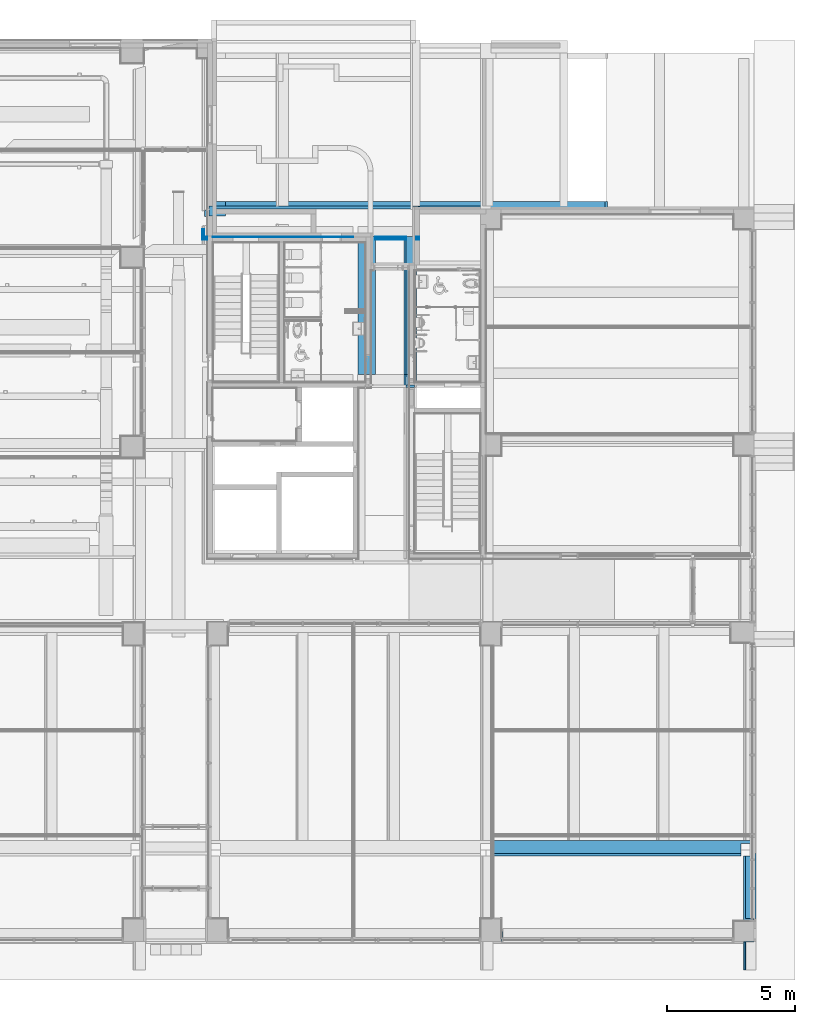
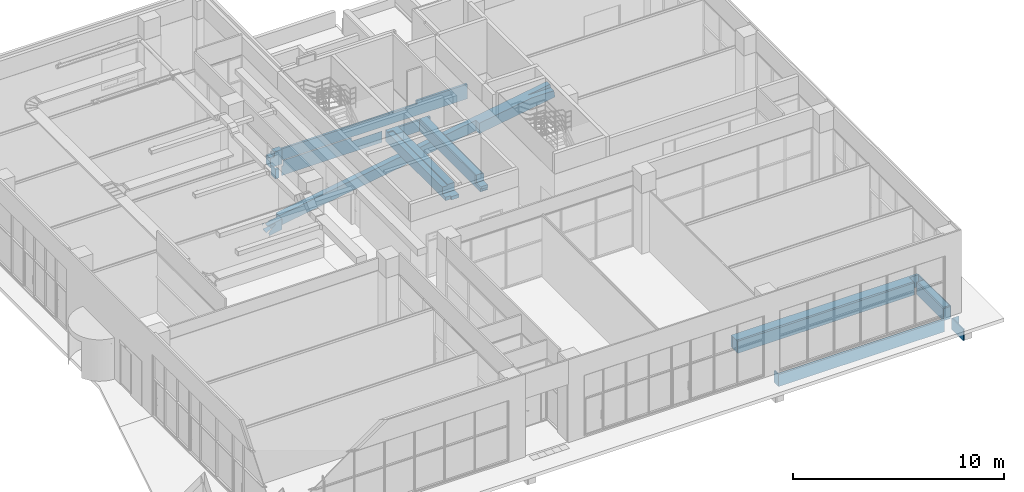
# One storey, part 59 of 100: 12 beams.
"""IFC2X3 building model written with IfcOpenShell, lengths in millimetres."""

import ifcopenshell
import ifcopenshell.guid

model = None  # the IFC model being written
_history = None  # IfcOwnerHistory: only IFC2X3 demands one
_inside = {}  # id of a spatial element -> (the spatial element, [elements in it])
_under = {}  # id of a project, library or spatial element -> (it, [spatial elements below it])
_declared = {}  # id of a project -> (the project, [libraries it declares])
_typed = {}  # id of a type object -> (the type object, [elements of that type])
_made_of = {}  # id of a material, layer set ... -> (it, [elements and type objects made of it])


def new_model(schema):
    """Start an empty IFC model of exactly this schema.

    Asked for "IFC4X3", IfcOpenShell would pick the latest addendum, in which some entities
    have other attributes; the version numbers below select the first issue.
    IFC2X3 requires an IfcOwnerHistory on every rooted entity: one is made here for all.
    """
    global model, _history
    if schema == "IFC4X3":
        model = ifcopenshell.file(schema_version=(4, 3, 0, 0))
    else:
        model = ifcopenshell.file(schema=schema)
    _inside.clear()
    _under.clear()
    _declared.clear()
    _typed.clear()
    _made_of.clear()
    _history = None
    if model.schema == "IFC2X3":
        org = make("IfcOrganization", Name="unknown")
        user = make(
            "IfcPersonAndOrganization",
            ThePerson=make("IfcPerson", FamilyName="unknown"),
            TheOrganization=org,
        )
        app = make(
            "IfcApplication",
            ApplicationDeveloper=org,
            Version="unknown",
            ApplicationFullName="unknown",
            ApplicationIdentifier="unknown",
        )
        _history = make(
            "IfcOwnerHistory",
            OwningUser=user,
            OwningApplication=app,
            ChangeAction="ADDED",
            CreationDate=0,
        )
    return model


def make(cls, **values):
    """One entity of the class cls with the attributes given. An attribute that is None is left unset."""
    return model.create_entity(
        cls, **{name: value for name, value in values.items() if value is not None}
    )


def entity(cls, *values):
    """Any entity or typed value of the class cls, its attributes in the order of the schema. None: left unset."""
    e = model.create_entity(cls)
    for i, value in enumerate(values):
        if value is not None:
            e[i] = value
    return e


def rooted(cls, **values):
    """An entity with a GlobalId (a new one), such as an element, a storey or a relation."""
    return make(cls, GlobalId=ifcopenshell.guid.new(), OwnerHistory=_history, **values)


def si_unit(unit_type, name, prefix=None):
    """IfcSIUnit, for example si_unit("LENGTHUNIT", "METRE", prefix="MILLI")."""
    return make("IfcSIUnit", UnitType=unit_type, Prefix=prefix, Name=name)


def converted_unit(unit_type, name, factor, base, dimensions=None, offset=None):
    """IfcConversionBasedUnit, such as the inch: factor (a typed value) times the base unit."""
    return make(
        "IfcConversionBasedUnit"
        if offset is None
        else "IfcConversionBasedUnitWithOffset",
        ConversionOffset=offset,
        Dimensions=None
        if dimensions is None
        else entity("IfcDimensionalExponents", *dimensions),
        UnitType=unit_type,
        Name=name,
        ConversionFactor=make(
            "IfcMeasureWithUnit", ValueComponent=factor, UnitComponent=base
        ),
    )


def derived_unit(unit_type, elements):
    """IfcDerivedUnit: a product of units, each with its exponent."""
    return make(
        "IfcDerivedUnit",
        Elements=[
            make("IfcDerivedUnitElement", Unit=unit, Exponent=power)
            for unit, power in elements
        ],
        UnitType=unit_type,
    )


def assignment(units):
    """IfcUnitAssignment: the units of a project."""
    return None if units is None else make("IfcUnitAssignment", Units=units)


def point(xyz):
    """IfcCartesianPoint."""
    return None if xyz is None else make("IfcCartesianPoint", Coordinates=xyz)


def direction(xyz):
    """IfcDirection."""
    return None if xyz is None else make("IfcDirection", DirectionRatios=xyz)


def frame(location, z_axis=None, x_axis=None):
    """IfcAxis2Placement3D, a coordinate frame: its origin and axes. An axis left out is left unset."""
    return make(
        "IfcAxis2Placement3D",
        Location=point(location),
        Axis=direction(z_axis),
        RefDirection=direction(x_axis),
    )


def origin():
    """The frame at (0, 0, 0) with its axes left unset."""
    return frame((0.0, 0.0, 0.0))


def place(relative_to, where):
    """IfcLocalPlacement: puts the frame where relative to a parent placement (None: the world)."""
    return make(
        "IfcLocalPlacement", PlacementRelTo=relative_to, RelativePlacement=where
    )


def context(
    kind, dimensions, precision=None, world=None, true_north=None, identifier=None
):
    """IfcGeometricRepresentationContext, for example the 3D "Model" context."""
    return make(
        "IfcGeometricRepresentationContext",
        ContextIdentifier=identifier,
        ContextType=kind,
        CoordinateSpaceDimension=dimensions,
        Precision=precision,
        WorldCoordinateSystem=world,
        TrueNorth=true_north,
    )


def subcontext(parent, identifier, kind, view, scale=None):
    """IfcGeometricRepresentationSubContext, for example "Body" below "Model"."""
    return make(
        "IfcGeometricRepresentationSubContext",
        ContextIdentifier=identifier,
        ContextType=kind,
        ParentContext=parent,
        TargetScale=scale,
        TargetView=view,
    )


def project(units=None, contexts=None):
    """IfcProject with its units and contexts."""
    return rooted(
        "IfcProject",
        Name="project",
        RepresentationContexts=contexts,
        UnitsInContext=assignment(units),
    )


def spatial(cls, under=None, at=None, **own):
    """A site, building, storey or space (cls), placed at a placement, below another one or the project."""
    s = rooted(cls, ObjectPlacement=at, **own)
    if under is not None:
        _under.setdefault(under.id(), (under, []))[1].append(s)
    return s


def faces_of(points, faces, orient=None, outer=None):
    """IfcFace entities. A face is a list of loops; a loop is a list of indices into points, from 0.

    orient and outer hold one flag for each loop. By default every Orientation is true, the
    first loop of a face is its IfcFaceOuterBound and the others are IfcFaceBound.
    """
    made = []
    for i, loops in enumerate(faces):
        bounds = []
        for j, loop in enumerate(loops):
            is_outer = j == 0 if outer is None else outer[i][j]
            bounds.append(
                make(
                    "IfcFaceOuterBound" if is_outer else "IfcFaceBound",
                    Bound=make("IfcPolyLoop", Polygon=[points[k] for k in loop]),
                    Orientation=True if orient is None else orient[i][j],
                )
            )
        made.append(make("IfcFace", Bounds=bounds))
    return made


def faceted_brep(points, faces, orient=None, outer=None, voids=None):
    """IfcFacetedBrep: a solid bounded by flat faces; with voids (closed shells), ...WithVoids."""
    shared = [point(p) for p in points]
    hull = make("IfcClosedShell", CfsFaces=faces_of(shared, faces, orient, outer))
    if voids is None:
        return make("IfcFacetedBrep", Outer=hull)
    return make(
        "IfcFacetedBrepWithVoids",
        Outer=hull,
        Voids=[
            make(cls, CfsFaces=faces_of(shared, fs, o, b)) for cls, fs, o, b in voids
        ],
    )


def shape(context_of_items, identifier, shape_type, items):
    """IfcShapeRepresentation: the items that make up one representation, for example the "Body"."""
    return make(
        "IfcShapeRepresentation",
        ContextOfItems=context_of_items,
        RepresentationIdentifier=identifier,
        RepresentationType=shape_type,
        Items=items,
    )


def source(mapping_origin, context_of_items, identifier, shape_type, items):
    """IfcRepresentationMap: a shape defined once, which mapped items show again and again."""
    return make(
        "IfcRepresentationMap",
        MappingOrigin=mapping_origin,
        MappedRepresentation=shape(context_of_items, identifier, shape_type, items),
    )


def transform(
    local_origin,
    x_axis=None,
    y_axis=None,
    z_axis=None,
    scale=None,
    scale2=None,
    scale3=None,
    uniform=True,
):
    """IfcCartesianTransformationOperator3D, or its non-uniform kind. x_axis, y_axis, z_axis: its Axis1, 2, 3."""
    if uniform:
        return make(
            "IfcCartesianTransformationOperator3D",
            Axis1=direction(x_axis),
            Axis2=direction(y_axis),
            LocalOrigin=point(local_origin),
            Scale=scale,
            Axis3=direction(z_axis),
        )
    return make(
        "IfcCartesianTransformationOperator3DnonUniform",
        Axis1=direction(x_axis),
        Axis2=direction(y_axis),
        LocalOrigin=point(local_origin),
        Scale=scale,
        Axis3=direction(z_axis),
        Scale2=scale2,
        Scale3=scale3,
    )


def mapped(mapping_source, mapping_target):
    """IfcMappedItem: shows the shape of a source again, moved by a transform."""
    return make(
        "IfcMappedItem", MappingSource=mapping_source, MappingTarget=mapping_target
    )


def material(Name=None, Category=None):
    """IfcMaterial."""
    return make("IfcMaterial", Name=Name, Category=Category)


def material_list(materials):
    """IfcMaterialList."""
    return make("IfcMaterialList", Materials=materials)


def made_of(thing, what):
    """Note that an element or type object is made of a material, layer set ...; save() writes the relation."""
    if what is not None:
        _made_of.setdefault(what.id(), (what, []))[1].append(thing)
    return thing


def type_object(cls, material=None, **own):
    """A type object (cls), such as IfcWallType, which elements share."""
    return made_of(rooted(cls, **own), material)


def type_shapes(of_type, sources):
    """Give a type object the sources (RepresentationMaps) that its elements show as mapped items."""
    of_type.RepresentationMaps = sources


def element(
    cls,
    number,
    at=None,
    inside=None,
    cuts=None,
    type_object=None,
    material=None,
    context=None,
    identifier="Body",
    shape_type=None,
    held_by="IfcProductDefinitionShape",
    body=None,
    shapes=None,
    **own,
):
    """One element of the class cls, such as IfcWall. Its Tag is "e" and its number.

    at: its placement. inside: the storey or other place that contains it. cuts: it is an
    opening in that element (IfcRelVoidsElement). A single representation is given by context,
    identifier, shape_type and body (its items); several are given by shapes. held_by: the class
    of the entity that holds the representations. save() writes the other relations.
    """
    e = rooted(cls, Tag="e%d" % number, ObjectPlacement=at, **own)
    if body is not None:
        shapes = [shape(context, identifier, shape_type, body)]
    if shapes is not None:
        e.Representation = make(held_by, Representations=shapes)
    if inside is not None:
        _inside.setdefault(inside.id(), (inside, []))[1].append(e)
    if cuts is not None:
        rooted(
            "IfcRelVoidsElement", RelatingBuildingElement=cuts, RelatedOpeningElement=e
        )
    if type_object is not None:
        _typed.setdefault(type_object.id(), (type_object, []))[1].append(e)
    return made_of(e, material)


def aggregate(whole, parts):
    """IfcRelAggregates: a whole, such as a stair, and the parts it consists of."""
    return rooted("IfcRelAggregates", RelatingObject=whole, RelatedObjects=parts)


def save(model, path):
    """Write the relations noted so far, then the file.

    IfcRelAggregates (storeys below a building ...), IfcRelContainedInSpatialStructure (elements
    in a storey), IfcRelDefinesByType, IfcRelAssociatesMaterial and IfcRelDeclares: one each for
    every whole, place, type object, material and project.
    """
    for whole, parts in _under.values():
        aggregate(whole, parts)
    for where, things in _inside.values():
        rooted(
            "IfcRelContainedInSpatialStructure",
            RelatedElements=things,
            RelatingStructure=where,
        )
    for kind, things in _typed.values():
        rooted("IfcRelDefinesByType", RelatedObjects=things, RelatingType=kind)
    for what, things in _made_of.values():
        rooted("IfcRelAssociatesMaterial", RelatedObjects=things, RelatingMaterial=what)
    for by, libraries in _declared.values():
        rooted("IfcRelDeclares", RelatingContext=by, RelatedDefinitions=libraries)
    model.write(path)


model = new_model("IFC2X3")

# Units and contexts
model_context = context("Model", 3, precision=0.01, world=origin(), true_north=direction((6.123031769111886e-17, 1.0)))
body_context = subcontext(model_context, "Body", "Model", "MODEL_VIEW")
ifc_project = project(units=[si_unit("LENGTHUNIT", "METRE", prefix="MILLI"), si_unit("AREAUNIT", "SQUARE_METRE"), si_unit("VOLUMEUNIT", "CUBIC_METRE"), converted_unit("PLANEANGLEUNIT", "DEGREE", entity("IfcRatioMeasure", 0.017453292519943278), si_unit("PLANEANGLEUNIT", "RADIAN"), dimensions=[0, 0, 0, 0, 0, 0, 0]), si_unit("MASSUNIT", "GRAM", prefix="KILO"), derived_unit("MASSDENSITYUNIT", [(si_unit("MASSUNIT", "GRAM", prefix="KILO"), 1), (si_unit("LENGTHUNIT", "METRE"), -3)]), derived_unit("MOMENTOFINERTIAUNIT", [(si_unit("LENGTHUNIT", "METRE"), 4)]), si_unit("TIMEUNIT", "SECOND"), si_unit("FREQUENCYUNIT", "HERTZ"), si_unit("THERMODYNAMICTEMPERATUREUNIT", "DEGREE_CELSIUS"), derived_unit("THERMALTRANSMITTANCEUNIT", [(si_unit("MASSUNIT", "GRAM", prefix="KILO"), 1), (si_unit("THERMODYNAMICTEMPERATUREUNIT", "KELVIN"), -1), (si_unit("TIMEUNIT", "SECOND"), -3)]), derived_unit("VOLUMETRICFLOWRATEUNIT", [(si_unit("LENGTHUNIT", "METRE"), 3), (si_unit("TIMEUNIT", "SECOND"), -1)]), derived_unit("MASSFLOWRATEUNIT", [(si_unit("MASSUNIT", "GRAM", prefix="KILO"), 1), (si_unit("TIMEUNIT", "SECOND"), -1)]), derived_unit("ROTATIONALFREQUENCYUNIT", [(si_unit("TIMEUNIT", "SECOND"), -1)]), si_unit("ELECTRICCURRENTUNIT", "AMPERE"), si_unit("ELECTRICVOLTAGEUNIT", "VOLT"), si_unit("POWERUNIT", "WATT"), si_unit("FORCEUNIT", "NEWTON", prefix="KILO"), si_unit("ILLUMINANCEUNIT", "LUX"), si_unit("LUMINOUSFLUXUNIT", "LUMEN"), si_unit("LUMINOUSINTENSITYUNIT", "CANDELA"), derived_unit("USERDEFINED", [(si_unit("MASSUNIT", "GRAM", prefix="KILO"), -1), (si_unit("LENGTHUNIT", "METRE"), -2), (si_unit("TIMEUNIT", "SECOND"), 3), (si_unit("LUMINOUSFLUXUNIT", "LUMEN"), 1)]), derived_unit("SOUNDPOWERUNIT", [(si_unit("MASSUNIT", "GRAM", prefix="KILO"), 1), (si_unit("LENGTHUNIT", "METRE"), 2), (si_unit("TIMEUNIT", "SECOND"), -3)]), derived_unit("SOUNDPRESSUREUNIT", [(si_unit("MASSUNIT", "GRAM", prefix="KILO"), 1), (si_unit("LENGTHUNIT", "METRE"), -1), (si_unit("TIMEUNIT", "SECOND"), -2)]), derived_unit("LINEARVELOCITYUNIT", [(si_unit("LENGTHUNIT", "METRE"), 1), (si_unit("TIMEUNIT", "SECOND"), -1)]), si_unit("PRESSUREUNIT", "PASCAL"), derived_unit("USERDEFINED", [(si_unit("LENGTHUNIT", "METRE"), -2), (si_unit("MASSUNIT", "GRAM", prefix="KILO"), 1), (si_unit("TIMEUNIT", "SECOND"), -2)]), derived_unit("LINEARFORCEUNIT", [(si_unit("MASSUNIT", "GRAM", prefix="KILO"), 1), (si_unit("LENGTHUNIT", "METRE"), 1), (si_unit("TIMEUNIT", "SECOND"), -2), (si_unit("LENGTHUNIT", "METRE"), -1)]), derived_unit("PLANARFORCEUNIT", [(si_unit("MASSUNIT", "GRAM", prefix="KILO"), 1), (si_unit("LENGTHUNIT", "METRE"), 1), (si_unit("TIMEUNIT", "SECOND"), -2), (si_unit("LENGTHUNIT", "METRE"), -2)])], contexts=[model_context])

# Site, building, storey
site_placement = place(None, frame((-14167.972527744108, -657.2125860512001, 0.0)))
site = spatial("IfcSite", under=ifc_project, at=site_placement, Name="Default", CompositionType="ELEMENT")
building_placement = place(site_placement, origin())
building = spatial("IfcBuilding", under=site, at=building_placement, Name="Sample Building", CompositionType="ELEMENT")
storey_placement = place(building_placement, origin())
storey = spatial("IfcBuildingStorey", under=building, at=storey_placement, Name="지상 1층", CompositionType="ELEMENT", Elevation=0.0)

# Beams
ifc_material = material(Name="KBIMS-콘크리트")
beam_type_1 = type_object("IfcBeamType", Name="BM111-철근콘크리트구조 보:BM110-철근 콘크리트구조 보_400 x 850_B1-1G3", PredefinedType="NOTDEFINED")
beam_1_placement = place(storey_placement, frame((51143.2459298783, 1458.877196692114, -850.0), z_axis=(0.0, 0.0, 1.0), x_axis=(0.0, 1.0, 0.0)))
element("IfcBeam", 1, at=beam_1_placement, inside=storey, type_object=beam_type_1, material=ifc_material, Name="BM111-철근콘크리트구조 보:BM110-철근 콘크리트구조 보_400 x 850_B1-1G3", ObjectType="BM111-철근콘크리트구조 보:BM110-철근 콘크리트구조 보_400 x 850_B1-1G3", context=body_context, shape_type="Brep", body=[
    faceted_brep([(0.0, 0.0, 0.0), (0.0, -324.7005496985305, 0.0), (0.0, -400.0, 0.0), (0.0, -400.0, 650.0), (0.0, -324.7265554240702, 650.0), (0.0, -324.7265554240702, 700.0), (0.0, 0.0, 700.0), (2562.1999935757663, -400.0, 0.0), (2562.1999935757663, -400.0, 650.0), (2448.335495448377, 0.0, 0.0), (2448.335495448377, -324.71790823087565, 0.0), (2562.1999935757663, -324.71790823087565, 0.0), (2448.335495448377, 0.0, 700.0), (2562.1999935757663, -324.7265554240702, 650.0), (2562.1999935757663, -324.71790823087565, 650.0), (2448.335495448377, -324.72655542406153, 650.0), (2448.335495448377, -324.7265554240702, 700.0), (2448.335495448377, -324.71790823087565, 650.0)], [[[0, 1, 2, 3, 4, 5, 6]], [[3, 2, 7, 8]], [[2, 1, 0, 9, 10, 11, 7]], [[0, 6, 12, 9]], [[8, 7, 11, 13]], [[4, 3, 8, 14, 15]], [[5, 4, 15, 16]], [[6, 5, 16, 12]], [[10, 17, 14, 11]], [[17, 10, 9, 12, 16]]]),
])
beam_2_placement = place(storey_placement, frame((51067.946479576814, 1357.2127049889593, -850.0), z_axis=(0.0, 0.0, 1.0), x_axis=(0.0, 1.0, 0.0)))
element("IfcBeam", 2, at=beam_2_placement, inside=storey, type_object=beam_type_1, material=ifc_material, Name="BM111-철근콘크리트구조 보:BM110-철근 콘크리트구조 보_400 x 850_B1-1G3", ObjectType="BM111-철근콘크리트구조 보:BM110-철근 콘크리트구조 보_400 x 850_B1-1G3", context=body_context, shape_type="Brep", body=[
    faceted_brep([(0.0, 0.0, 0.0), (0.0, -400.0, 0.0), (0.0, -400.0, 650.0), (0.0, -400.0, 700.0), (0.0, 0.0, 700.0), (2549.9999871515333, 0.0, 0.0), (2549.9999871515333, 0.0, 700.0), (2549.9999871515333, -75.29945030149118, 700.0), (2549.9999871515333, -75.29945030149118, 0.0), (101.66449170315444, -400.0, 0.0), (101.66449170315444, -400.0, 700.0), (101.66449170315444, -75.29945030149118, 0.0), (101.66449170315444, -75.29945030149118, 700.0)], [[[0, 1, 2, 3, 4]], [[5, 6, 7, 8]], [[2, 1, 9, 10, 3]], [[1, 0, 5, 8, 11, 9]], [[5, 0, 4, 6]], [[4, 3, 10, 12, 7, 6]], [[11, 12, 10, 9]], [[12, 11, 8, 7]]]),
])
beam_3_placement = place(storey_placement, frame((51067.955135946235, -542.7876920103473, -850.0), z_axis=(0.0, 0.0, 1.0), x_axis=(0.0, -1.0, 0.0)))
element("IfcBeam", 3, at=beam_3_placement, inside=storey, type_object=beam_type_1, material=ifc_material, Name="BM111-철근콘크리트구조 보:BM110-철근 콘크리트구조 보_400 x 850_B1-1G3", ObjectType="BM111-철근콘크리트구조 보:BM110-철근 콘크리트구조 보_400 x 850_B1-1G3", context=body_context, shape_type="Brep", body=[
    faceted_brep([(-1100.0003090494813, 400.0, 0.0), (-1100.0003090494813, 400.0, 650.0), (-1099.082403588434, 400.0, 650.0), (-1099.082403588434, 400.0, 0.0), (-1100.0003090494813, 0.0, 0.0), (-1099.082403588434, 75.29945030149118, 0.0), (0.0, 75.29945030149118, 0.0), (0.0, 0.0, 0.0), (0.0, 0.0, 650.0), (-1100.0003090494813, 0.0, 650.0), (0.0, 75.29945030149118, 650.0), (-1099.082403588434, 75.29945030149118, 650.0)], [[[0, 1, 2, 3]], [[4, 0, 3, 5, 6, 7]], [[8, 9, 4, 7]], [[0, 4, 9, 1]], [[9, 8, 10, 11, 2, 1]], [[8, 7, 6, 10]], [[11, 5, 3, 2]], [[5, 11, 10, 6]]]),
])
beam_type_2 = type_object("IfcBeamType", Name="BM111-철근콘크리트구조 보:BM110-철근 콘크리트구조 보_400 x 850_B1-1G1", PredefinedType="NOTDEFINED")
beam_4_placement = place(storey_placement, frame((41569.38893752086, 557.2125162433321, -850.0), z_axis=(0.0, 0.0, 1.0), x_axis=(-1.0, 0.0, 0.0)))
element("IfcBeam", 4, at=beam_4_placement, inside=storey, type_object=beam_type_2, material=ifc_material, Name="BM111-철근콘크리트구조 보:BM110-철근 콘크리트구조 보_400 x 850_B1-1G1", ObjectType="BM111-철근콘크리트구조 보:BM110-철근 콘크리트구조 보_400 x 850_B1-1G1", context=body_context, shape_type="Brep", body=[
    faceted_brep([(0.0, 0.0, 0.0), (-9098.57490058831, 0.0, 0.0), (-9098.57490058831, 0.0, 650.0), (-9098.57490058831, 0.0, 700.0), (0.0, 0.0, 700.0), (0.0, 0.0, 650.0), (0.0, -400.0, 0.0), (-62.599450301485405, -400.0, 0.0), (-62.599450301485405, -113.86449812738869, 0.0), (-9098.57490058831, -113.86449812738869, 0.0), (0.0, -400.0, 700.0), (-62.599450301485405, -400.0, 700.0), (-9098.57490058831, -113.86449812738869, 700.0), (-62.599450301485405, -113.86449812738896, 700.0)], [[[0, 1, 2, 3, 4, 5]], [[0, 6, 7, 8, 9, 1]], [[6, 10, 11, 7]], [[6, 0, 5, 4, 10]], [[2, 1, 9, 12, 3]], [[4, 3, 12, 13, 11, 10]], [[13, 8, 7, 11]], [[8, 13, 12, 9]]]),
])
beam_type_3 = type_object("IfcBeamType", Name="BM111-철근콘크리트구조 보:BM110-철근 콘크리트구조 보_500 x 850_B1-1G5", PredefinedType="NOTDEFINED")
beam_5_placement = place(storey_placement, frame((41268.24591448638, 4021.0771902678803, -850.0), z_axis=(0.0, 0.0, 1.0), x_axis=(-1.0, 0.0, 0.0)))
element("IfcBeam", 5, at=beam_5_placement, inside=storey, type_object=beam_type_3, material=ifc_material, Name="BM111-철근콘크리트구조 보:BM110-철근 콘크리트구조 보_500 x 850_B1-1G5", ObjectType="BM111-철근콘크리트구조 보:BM110-철근 콘크리트구조 보_500 x 850_B1-1G5", context=body_context, shape_type="Brep", body=[
    faceted_brep([(0.0, -500.0, 0.0), (0.0, -386.1355018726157, 0.0), (0.0, 0.0, 0.0), (0.0, 0.0, 700.0), (0.0, -386.1355018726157, 700.0), (0.0, -500.0, 700.0), (-2899.700534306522, -500.0, 700.0), (-2974.999984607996, -500.0, 700.0), (-3374.9999846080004, -500.0, 700.0), (-6399.700534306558, -500.0, 700.0), (-6474.999984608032, -500.0, 700.0), (-6874.999984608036, -500.0, 700.0), (-9799.700565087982, -500.0, 700.0), (-9875.0, -500.0, 700.0), (-10199.726570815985, -500.0, 700.0), (-10199.726570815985, -500.0, 650.0), (-10275.0, -500.0, 650.0), (-10275.0, -500.0, 0.0), (-9875.0, -500.0, 0.0), (-9799.700565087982, -500.0, 0.0), (-6874.999984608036, -500.0, 0.0), (-6474.999984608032, -500.0, 0.0), (-6399.700534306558, -500.0, 0.0), (-3374.9999846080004, -500.0, 0.0), (-2974.999984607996, -500.0, 0.0), (-2899.700534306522, -500.0, 0.0), (-10275.0, 0.0, 0.0), (-10199.717923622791, 0.0, 0.0), (-10199.717923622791, -386.13550187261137, 0.0), (-9699.717923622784, -386.13550187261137, 0.0), (-9699.717923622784, 0.0, 0.0), (-9699.717923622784, 0.0, 700.0), (-10199.717914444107, -500.0, 700.0), (-9699.717923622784, -386.13550187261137, 700.0), (-10199.726570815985, -386.13550187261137, 700.0), (-10275.0, 0.0, 650.0), (-10199.717923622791, -386.1355018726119, 650.0), (-10199.726570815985, 0.0, 650.0), (-10199.726570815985, -386.1355018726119, 650.0), (-10199.717923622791, 0.0, 650.0)], [[[0, 1, 2, 3, 4, 5]], [[5, 6, 7, 8, 9, 10, 11, 12, 13, 14, 15, 16, 17, 18, 19, 20, 21, 22, 23, 24, 25, 0]], [[2, 1, 0, 25, 24, 23, 22, 21, 20, 19, 18, 17, 26, 27, 28, 29, 30]], [[3, 2, 30, 31]], [[32, 13, 12, 11, 10, 9, 8, 7, 6, 5, 4, 3, 31, 33, 34]], [[26, 17, 16, 35]], [[16, 15, 36, 37, 35]], [[15, 14, 34, 38]], [[38, 28, 27, 39]], [[29, 33, 31, 30]], [[33, 29, 28, 38, 34]], [[26, 35, 39, 27]]]),
])
beam_6_placement = place(storey_placement, frame((41267.955141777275, 3907.2126921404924, -850.0), z_axis=(0.0, 0.0, 1.0), x_axis=(-1.0, 0.0, 0.0)))
element("IfcBeam", 6, at=beam_6_placement, inside=storey, type_object=beam_type_3, material=ifc_material, Name="BM111-철근콘크리트구조 보:BM110-철근 콘크리트구조 보_500 x 850_B1-1G5", ObjectType="BM111-철근콘크리트구조 보:BM110-철근 콘크리트구조 보_500 x 850_B1-1G5", context=body_context, shape_type="Brep", body=[
    faceted_brep([(0.0, -500.0, 0.0), (0.0, -500.0, 700.0), (-0.29077270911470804, -500.0, 700.0), (-0.29077270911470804, -500.0, 0.0), (0.0, 0.0, 0.0), (-0.29077270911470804, -113.86449812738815, 0.0), (-9700.00869633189, -113.86449812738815, 0.0), (-9700.00869633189, 0.0, 0.0), (-9700.00869633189, 0.0, 700.0), (0.0, 0.0, 700.0), (-9700.00869633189, -113.86449812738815, 700.0), (-0.29077270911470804, -113.8644981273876, 700.0)], [[[0, 1, 2, 3]], [[4, 0, 3, 5, 6, 7]], [[4, 7, 8, 9]], [[8, 7, 6, 10]], [[0, 4, 9, 1]], [[9, 8, 10, 11, 2, 1]], [[11, 5, 3, 2]], [[5, 11, 10, 6]]]),
])
beam_type_4 = type_object("IfcBeamType", Name="BM111-철근콘크리트구조 보:BM110-철근 콘크리트구조 보_400 x 850_B1-1WG1", PredefinedType="BEAM", material=ifc_material)
beam_7_placement = place(storey_placement, frame((30130.545880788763, 28971.077115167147, -1400.0)))
element("IfcBeam", 7, at=beam_7_placement, inside=storey, type_object=beam_type_4, material=ifc_material, Name="BM111-철근콘크리트구조 보:BM110-철근 콘크리트구조 보_400 x 850_B1-1WG1", ObjectType="BM111-철근콘크리트구조 보:BM110-철근 콘크리트구조 보_400 x 850_B1-1WG1", context=body_context, shape_type="Brep", body=[
    faceted_brep([(0.0, 400.0, 0.0), (0.0, 286.1355018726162, 0.0), (0.0, 252.73945850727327, 0.0), (0.0, 0.0, 0.0), (0.0, 0.0, 550.0), (0.0, 252.73945850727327, 550.0), (0.0, 286.1355018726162, 550.0), (0.0, 400.0, 550.0), (8262.708711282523, 400.0, 850.0), (8262.708711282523, 387.3000000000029, 850.0), (8187.426610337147, 387.3000000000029, 850.0), (8187.426610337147, 286.1351799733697, 850.0), (10837.41791736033, 286.1354873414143, 850.0), (10962.700018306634, 286.13550187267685, 850.0), (10962.700018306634, 400.0, 850.0), (10962.700018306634, 400.0, 0.0), (10962.700018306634, 286.13550187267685, 0.0), (637.4266103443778, 286.13519282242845, 0.0), (637.4266103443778, 0.0, 0.0), (212.69998169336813, 400.0, 550.0), (212.69998169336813, 400.0, 650.0), (2637.4005680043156, 400.0, 650.0), (2712.7000183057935, 400.0, 650.0), (3112.700018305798, 400.0, 650.0), (8262.708711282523, 400.0, 650.0), (8262.708711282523, 387.3000000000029, 650.0), (8187.426610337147, 387.3000000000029, 650.0), (212.6999816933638, 286.1351928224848, 650.0), (637.4266103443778, 286.13519282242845, 650.0), (8187.426610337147, 286.13519282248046, 650.0), (212.69998169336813, 271.3309407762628, 550.0), (212.6999816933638, 0.0, 550.0), (212.6999816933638, 0.0, 850.0), (212.6999816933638, 286.1351928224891, 850.0), (8187.426610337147, 286.1351799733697, 650.0), (8187.426610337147, 286.1351928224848, 850.0), (287.4178807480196, 286.1351928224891, 850.0), (637.4266103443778, 286.1351928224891, 850.0), (637.4266103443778, 286.1351799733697, 650.0), (637.4266103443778, 0.0, 850.0), (637.4266103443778, 286.1351799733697, 0.0)], [[[0, 1, 2, 3, 4, 5, 6, 7]], [[8, 9, 10, 11, 12, 13, 14]], [[3, 2, 1, 0, 15, 16, 17, 18]], [[15, 0, 7, 19, 20, 21, 22, 23, 24, 8, 14]], [[9, 25, 26, 10]], [[25, 9, 8, 24]], [[25, 24, 23, 22, 21, 20, 27, 28, 29, 26]], [[19, 30, 31, 32, 33, 27, 20]], [[7, 6, 5, 4, 31, 30, 19]], [[26, 34, 35, 10]], [[27, 33, 36, 37, 28]], [[11, 29, 38, 17, 16, 13, 12]], [[33, 32, 39, 37, 36]], [[40, 28, 37, 39, 18]], [[4, 3, 18, 39, 32, 31]], [[15, 14, 13, 16]]]),
])
ifc_material_list_1 = material_list([ifc_material, ifc_material])
beam_type_5 = type_object("IfcBeamType", Name="BM111-철근콘크리트구조 보:BM110-철근 콘크리트구조 보_400 x 800_1B5", PredefinedType="BEAM", material=ifc_material_list_1)
beam_8_placement = place(storey_placement, frame((37843.24589909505, 22371.077118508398, -1400.0), z_axis=(0.0, 0.0, 1.0), x_axis=(0.0, -1.0, 0.0)))
element("IfcBeam", 8, at=beam_8_placement, inside=storey, type_object=beam_type_5, material=ifc_material, Name="BM111-철근콘크리트구조 보:BM110-철근 콘크리트구조 보_400 x 800_1B5", ObjectType="BM111-철근콘크리트구조 보:BM110-철근 콘크리트구조 보_400 x 800_1B5", context=body_context, shape_type="Brep", body=[
    faceted_brep([(0.0, 0.0, 0.0), (0.0, 0.0, 50.0), (0.0, 0.0, 200.0), (-286.13550187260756, 0.0, 200.0), (-400.0, 0.0, 200.0), (-400.0, 0.0, 650.0), (-5686.135498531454, 0.0, 650.0), (-5800.0, 0.0, 650.0), (-5800.0, 0.0, 0.0), (-5686.135498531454, 0.0, 0.0), (0.0, 400.0, 0.0), (0.0, 324.70054969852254, 0.0), (-5800.0, 400.0, 0.0), (-5686.135498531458, 400.0, 0.0), (-4849.99998381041, 400.0, 0.0), (-4549.999983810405, 400.0, 0.0), (-4436.135485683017, 400.0, 0.0), (-400.0, 400.0, 200.0), (0.0, 400.0, 200.0), (-5800.0, 400.0, 650.0), (-5686.135498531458, 400.0, 650.0), (-4849.99998381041, 400.0, 650.0), (-4686.135176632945, 400.0, 650.0), (-4686.135176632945, 400.0, 500.0), (-4549.999983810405, 400.0, 500.0), (-4486.135176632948, 400.0, 500.0), (-4486.135176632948, 400.0, 600.0), (-4436.135485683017, 400.0, 600.0), (-400.0, 400.0, 600.0), (-400.0, 324.71789905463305, 600.0), (-400.0, 324.71789905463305, 650.0), (-4486.1351766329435, 324.7178990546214, 600.0), (-4486.1351766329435, 324.71789905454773, 500.0), (-4686.135176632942, 324.7178990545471, 500.0), (-4686.135176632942, 324.7178990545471, 650.0), (-4586.135176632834, 324.7178990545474, 650.0)], [[[0, 1, 2, 3, 4, 5, 6, 7, 8, 9]], [[10, 11, 0, 9, 8, 12, 13, 14, 15, 16]], [[17, 18, 10, 16, 15, 14, 13, 12, 19, 20, 21, 22, 23, 24, 25, 26, 27, 28]], [[12, 8, 7, 19]], [[0, 11, 10, 18, 2, 1]], [[17, 28, 29, 30, 5, 4]], [[4, 3, 2, 18, 17]], [[29, 28, 27, 26, 31]], [[30, 29, 31, 32, 33, 34, 35]], [[7, 6, 5, 30, 35, 34, 22, 21, 20, 19]], [[32, 31, 26, 25]], [[33, 23, 22, 34]], [[33, 32, 25, 24, 23]]]),
])
beam_9_placement = place(storey_placement, frame((37767.94644879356, 22257.212620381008, -1400.0), z_axis=(0.0, 0.0, 1.0), x_axis=(0.0, -1.0, 0.0)))
element("IfcBeam", 9, at=beam_9_placement, inside=storey, type_object=beam_type_5, material=ifc_material, Name="BM111-철근콘크리트구조 보:BM110-철근 콘크리트구조 보_400 x 800_1B5", ObjectType="BM111-철근콘크리트구조 보:BM110-철근 콘크리트구조 보_400 x 800_1B5", context=body_context, shape_type="Brep", body=[
    faceted_brep([(0.0, 0.0, 0.0), (0.0, 0.0, 200.0), (-513.8644981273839, 0.0, 200.0), (-513.8644981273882, 0.0, 650.0), (-5800.0, 0.0, 650.0), (-5800.0, 0.0, 0.0), (0.0, 400.0, 0.0), (-5800.0, 75.29945030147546, 0.0), (-113.86449812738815, 75.2994503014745, 0.0), (-113.86449812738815, 400.0, 0.0), (0.0, 400.0, 50.0), (-113.86449812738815, 400.0, 50.0), (-5800.0, 75.29945030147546, 650.0), (0.0, 75.29945030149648, 50.0), (0.0, 75.29945030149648, 200.0), (-113.86449812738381, 75.29945030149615, 200.0), (-513.8644981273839, 75.299450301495, 200.0), (-513.8644981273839, 75.29945030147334, 650.0), (-113.86449812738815, 75.29945030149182, 50.0)], [[[0, 1, 2, 3, 4, 5]], [[6, 0, 5, 7, 8, 9]], [[10, 6, 9, 11]], [[5, 4, 12, 7]], [[0, 6, 10, 13, 14, 1]], [[2, 1, 14, 15, 16]], [[17, 12, 4, 3]], [[3, 2, 16, 17]], [[7, 12, 17, 16, 15, 14, 13, 18, 8]], [[13, 10, 11, 18]], [[8, 18, 11, 9]]]),
])
beam_type_6 = type_object("IfcBeamType", Name="BM111-철근콘크리트구조 보:BM110-철근 콘크리트구조 보_800 x 800_1B7", PredefinedType="NOTDEFINED")
beam_10_placement = place(storey_placement, frame((35967.972491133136, 22371.077118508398, -1400.0), z_axis=(0.0, 0.0, 1.0), x_axis=(0.0, -1.0, 0.0)))
element("IfcBeam", 10, at=beam_10_placement, inside=storey, type_object=beam_type_6, material=ifc_material, Name="BM111-철근콘크리트구조 보:BM110-철근 콘크리트구조 보_800 x 800_1B7", ObjectType="BM111-철근콘크리트구조 보:BM110-철근 콘크리트구조 보_800 x 800_1B7", context=body_context, shape_type="Brep", body=[
    faceted_brep([(-5800.0, 0.0, 0.0), (-5800.0, 675.2734079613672, 0.0), (-5686.135498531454, 675.2734079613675, 0.0), (0.0, 675.2734079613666, 0.0), (0.0, 599.9739576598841, 0.0), (0.0, 375.28210094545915, 0.0), (0.0, 275.27340796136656, 0.0), (-86.1351928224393, 275.27340796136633, 0.0), (-86.1351928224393, 0.0, 0.0), (-5800.0, 675.2734079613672, 650.0), (-5686.135498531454, 675.2734079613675, 650.0), (-400.0, 675.2734079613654, 650.0), (-400.0, 675.2734079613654, 200.0), (0.0, 675.2734079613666, 200.0), (-5800.0, 0.0, 650.0), (-5586.135189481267, 299.99130701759, 600.0), (-5586.135189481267, 0.0, 600.0), (-400.0, 0.0, 600.0), (-400.0, 299.99130701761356, 600.0), (-5586.135189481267, 299.99130701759, 650.0), (-400.0, 299.99130701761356, 650.0), (-5586.135189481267, 0.0, 650.0), (-86.1351928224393, 0.0, 200.0), (-400.0, 0.0, 200.0), (0.0, 275.27340796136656, 200.0), (-86.1351928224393, 275.27340796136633, 200.0)], [[[0, 1, 2, 3, 4, 5, 6, 7, 8]], [[1, 9, 10, 11, 12, 13, 3, 2]], [[9, 1, 0, 14]], [[15, 16, 17, 18]], [[19, 15, 18, 20]], [[15, 19, 21, 16]], [[9, 14, 21, 19, 20, 11, 10]], [[14, 0, 8, 22, 23, 17, 16, 21]], [[3, 13, 24, 6, 5, 4]], [[23, 12, 11, 20, 18, 17]], [[12, 23, 22, 25, 24, 13]], [[25, 7, 6, 24]], [[7, 25, 22, 8]]]),
])
ifc_material_list_2 = material_list([ifc_material, ifc_material, ifc_material, ifc_material])
ifc_material_list_3 = material_list([ifc_material, ifc_material, ifc_material, ifc_material])
beam_type_7 = type_object("IfcBeamType", Name="BM111-철근콘크리트구조 보:BM110-철근 콘크리트구조 보_400 x 850_1WG2", PredefinedType="BEAM", material=ifc_material_list_3)
shared_shape_1 = source(origin(), body_context, "Body", "Brep", [
    faceted_brep([(4248.58678180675, 113.86449812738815, 850.0), (475.2994503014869, 113.86449812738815, 850.0), (475.2994503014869, 99.99969094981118, 850.0), (4248.58678180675, 99.99969094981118, 850.0), (475.2994503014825, 99.99969094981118, 550.0), (475.2994503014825, 113.86449812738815, 550.0), (398.17940227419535, 113.86449812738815, 550.0), (398.17940227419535, 99.99969094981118, 550.0), (5900.026078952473, 113.86449812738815, 0.0), (5900.026078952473, 99.99969094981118, 0.0), (398.17940227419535, 99.99969094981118, 0.0), (398.17940227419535, 113.86449812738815, 0.0), (5900.026078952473, 113.86449812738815, 650.0), (5900.026078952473, 99.99969094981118, 650.0), (4248.58678180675, 113.86449812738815, 650.0), (4248.58678180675, 99.99969094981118, 800.0), (4248.58678180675, 99.99969094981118, 650.0)], [[[0, 1, 2, 3]], [[4, 5, 6, 7]], [[8, 9, 10, 11]], [[8, 12, 13, 9]], [[14, 0, 3, 15, 16]], [[12, 14, 16, 13]], [[1, 5, 4, 2]], [[1, 0, 14, 12, 8, 11, 6, 5]], [[4, 7, 10, 9, 13, 16, 15, 3, 2]], [[7, 6, 11, 10]]]),
    faceted_brep([(8375.29948691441, 0.0, 650.0), (8375.29948691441, 0.0, 0.0), (8500.026078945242, 0.0, 0.0), (8500.026078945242, 0.0, 650.0), (8375.29948691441, 113.86449812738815, 0.0), (8500.026078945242, 113.86449812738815, 0.0), (8500.026078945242, 113.86449812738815, 650.0), (8375.29948691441, 113.86449812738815, 650.0)], [[[0, 1, 2, 3]], [[1, 4, 5, 2]], [[0, 3, 6, 7]], [[1, 0, 7, 4]], [[5, 4, 7, 6]], [[3, 2, 5, 6]]]),
    faceted_brep([(0.0, 400.0, 0.0), (0.0, 0.0, 0.0), (0.0, 0.0, 550.0), (0.0, 400.0, 550.0), (75.29945030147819, 400.0, 550.0), (75.29945030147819, 400.0, 0.0), (75.29945030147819, 113.86449812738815, 550.0), (75.29945030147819, 113.86449812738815, 0.0), (198.17940227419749, 0.0, 0.0), (198.17940227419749, 0.0, 550.0), (198.17940227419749, 113.86449812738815, 550.0), (198.17940227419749, 113.86449812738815, 0.0)], [[[0, 1, 2, 3]], [[0, 3, 4, 5]], [[6, 7, 5, 4]], [[2, 1, 8, 9]], [[10, 9, 8, 11]], [[3, 2, 9, 10, 6, 4]], [[1, 0, 5, 7, 11, 8]], [[7, 6, 10, 11]]]),
    faceted_brep([(6775.299486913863, 0.0, 0.0), (6775.299486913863, 0.0, 650.0), (6775.299486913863, 113.86449812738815, 650.0), (6775.299486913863, 113.86449812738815, 0.0), (7975.299486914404, 0.0, 650.0), (7975.299486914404, 0.0, 0.0), (7975.299486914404, 113.86449812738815, 0.0), (7975.299486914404, 113.86449812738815, 650.0), (7900.000036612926, 0.0, 0.0), (7900.000036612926, 0.0, 650.0)], [[[0, 1, 2, 3]], [[4, 5, 6, 7]], [[1, 0, 8, 5, 4, 9]], [[0, 3, 6, 5, 8]], [[3, 2, 7, 6]], [[1, 9, 4, 7, 2]]]),
])
type_shapes(beam_type_7, [shared_shape_1])
beam_11_placement = place(storey_placement, frame((29867.94641218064, 28057.21261703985, -1400.0)))
element("IfcBeam", 11, at=beam_11_placement, inside=storey, type_object=beam_type_7, material=ifc_material_list_2, Name="BM111-철근콘크리트구조 보:BM110-철근 콘크리트구조 보_400 x 850_1WG2", ObjectType="BM111-철근콘크리트구조 보:BM110-철근 콘크리트구조 보_400 x 850_1WG2", context=body_context, shape_type="MappedRepresentation", body=[
    mapped(shared_shape_1, transform((0.0, 0.0, 0.0), scale=1.0)),
])
ifc_material_list_4 = material_list([ifc_material, ifc_material])
ifc_material_list_5 = material_list([ifc_material, ifc_material])
beam_type_8 = type_object("IfcBeamType", Name="BM111-철근콘크리트구조 보:BM110-철근 콘크리트구조 보_600 x 600_RAWG1", PredefinedType="BEAM", material=ifc_material_list_5)
shared_shape_2 = source(origin(), body_context, "Body", "Brep", [
    faceted_brep([(82.35971078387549, 13.181175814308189, 88.1933130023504), (96.46619847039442, 24.765532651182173, 1.5952722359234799), (96.46619847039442, 1.5952722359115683, 1.5952722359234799), (68.25440247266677, 1.5952722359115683, 174.78411372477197), (89.96278010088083, 601.5952722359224, 41.51897979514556), (96.46619847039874, 601.5952722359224, 1.595272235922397), (96.46619847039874, 282.2586986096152, 1.595272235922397), (0.0, 1.5952722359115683, 593.7897272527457), (0.0, 240.0249451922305, 593.7897272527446), (4.855716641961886, 1.5952722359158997, 563.9810635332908), (15772.248219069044, 1.5952722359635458, 2555.1198565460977), (15772.248219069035, 601.5952722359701, 2555.1198565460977), (15675.782020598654, 601.5952722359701, 3147.3143115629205), (15675.782020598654, 301.5952722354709, 3147.3143115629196), (15708.611305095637, 301.5952722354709, 2945.7792604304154), (15708.611305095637, 1.5952722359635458, 2945.7792604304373), (11612.222235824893, 1.595272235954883, 2485.376055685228), (14438.582445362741, 1.5952722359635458, 2945.7792604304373), (14438.582445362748, 301.5952722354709, 2945.7792604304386), (812.2395851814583, 601.5952722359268, 726.1004308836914), (812.239585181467, 301.5949631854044, 726.1004308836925), (11612.222235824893, 301.59527223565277, 2485.376055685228), (552.1528592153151, 296.04776019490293, 683.7333038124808), (422.34601325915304, 287.7320002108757, 662.5882679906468), (389.89430177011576, 285.6530602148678, 657.3020090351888), (357.44259028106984, 283.5741202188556, 652.0157500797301), (324.99087879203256, 281.49518022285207, 646.7294911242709), (292.53916730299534, 279.4162402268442, 641.4432321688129), (267.83347643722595, 276.77196143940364, 637.4187701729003), (243.1277855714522, 274.12768265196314, 633.3943081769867), (218.4220947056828, 271.48340386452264, 629.3698461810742), (206.0692492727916, 270.16126447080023, 627.3576151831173), (193.71640383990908, 268.83912507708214, 625.3453841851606), (173.73568875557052, 266.7005659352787, 622.0906025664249), (163.74533121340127, 265.63128636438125, 620.4632117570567), (153.754973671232, 264.5620067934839, 618.8358209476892), (143.76461612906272, 263.49272722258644, 617.2084301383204), (133.77425858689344, 262.42344765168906, 615.5810393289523), (123.7839010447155, 261.354168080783, 613.9536485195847), (113.7935435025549, 260.2848885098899, 612.3262577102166), (33.870683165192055, 251.7306519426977, 599.3071312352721), (812.2395851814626, 1.5952722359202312, 726.1004308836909), (452.16083030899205, 601.5952722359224, 84.56710871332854), (411.86244273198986, 601.5952722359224, 403.0469591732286), (478.59542379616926, 601.5952722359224, 412.6527983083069), (545.3262850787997, 601.5952722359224, 422.2678539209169), (612.0555405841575, 601.5952722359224, 431.8900790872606), (678.7837107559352, 601.5952722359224, 441.51741662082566), (745.51132090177, 601.5952722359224, 451.14780119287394), (812.2395851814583, 601.5952722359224, 460.7792604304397), (812.2395851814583, 301.59496318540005, 118.19200325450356), (812.2395851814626, 1.5952722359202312, 118.19200325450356), (291.541812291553, 45.82671448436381, 33.37233924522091), (487.2381597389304, 60.16111898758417, 65.2505213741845), (466.5688102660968, 410.1661464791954, 61.88356386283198), (11612.222235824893, 1.595272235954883, 1877.46762805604), (11612.222235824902, 301.59527223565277, 1877.4676280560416), (357.467146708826, 1.5952722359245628, 472.32245396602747), (283.4406902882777, 1.5952722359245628, 411.06835507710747), (210.5539328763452, 1.5952722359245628, 341.0515005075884), (138.82065082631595, 1.5952722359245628, 262.28512416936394), (421.39757226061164, 1.5952722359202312, 613.4880873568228), (432.61931036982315, 1.5952722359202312, 524.8022195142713), (812.2395851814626, 301.59527223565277, 460.7792604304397), (415.6246656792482, 539.2061066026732, 403.03174877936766), (452.23295715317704, 22.626287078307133, 359.7770534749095), (399.8682806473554, 287.6404696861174, 647.3832380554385), (415.26983910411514, 288.66445684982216, 525.1763191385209), (430.6739393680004, 289.64946835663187, 402.96787746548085), (426.91156140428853, 352.03862408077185, 402.9843176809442), (423.14922390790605, 414.42778245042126, 403.0004368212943), (419.3869257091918, 476.81694331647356, 403.01624420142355), (115.24169821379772, 260.95470114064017, 610.153800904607), (127.9113366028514, 262.3909050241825, 611.8426502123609), (134.24615579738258, 263.109006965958, 612.6870748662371), (140.58097499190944, 263.82710890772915, 613.5314995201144), (153.25061338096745, 265.26331279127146, 615.2203488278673), (165.92025177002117, 266.6995166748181, 616.9091981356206), (178.58989015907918, 268.13572055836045, 618.5980474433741), (191.25952854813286, 269.5719244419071, 620.2868967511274), (203.9291669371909, 271.0081283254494, 621.9757460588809), (216.59880532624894, 272.44433220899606, 623.6645953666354), (239.5074897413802, 274.3438493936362, 626.629425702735), (262.4161741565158, 276.2433665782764, 629.5942560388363), (285.3248585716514, 278.14288376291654, 632.5590863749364), (308.23354298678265, 280.0424009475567, 635.5239167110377), (331.14222740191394, 281.9419181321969, 638.488747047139), (354.0509118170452, 283.8414353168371, 641.4535773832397), (812.239585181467, 418.02509878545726, 460.7792604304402), (812.239585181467, 301.5949631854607, 460.7792604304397), (621.3357835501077, 298.60699683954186, 431.8737417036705), (619.7564132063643, 450.1951940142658, 432.33463010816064)], [[[0, 1, 2, 3]], [[4, 5, 6]], [[7, 8, 9]], [[10, 11, 12, 13, 14, 15]], [[16, 17, 18, 13, 12, 19, 20, 21]], [[20, 22, 23, 24, 25, 26, 27, 28, 29, 30, 31, 32, 33, 34, 35, 36, 37, 38, 39, 40, 8, 7, 41]], [[19, 12, 11, 5, 4, 42, 43, 44, 45, 46, 47, 48, 49]], [[50, 51, 2, 1, 52, 53, 54, 6, 5, 11, 10, 55, 56]], [[17, 16, 55, 10, 15]], [[57, 58, 59, 60, 3, 2, 51, 41, 7, 9, 61, 62]], [[20, 56, 21]], [[56, 20, 63]], [[56, 63, 50]], [[64, 43, 42, 54, 53, 65, 62, 61, 66, 67, 68, 69, 70, 71]], [[40, 72, 73, 74, 75, 76, 77, 78, 79, 80, 81, 82, 83, 84, 85, 86, 87, 66, 61, 9, 8]], [[4, 6, 54, 42]], [[52, 58, 65]], [[65, 53, 52]], [[65, 58, 57]], [[52, 59, 58]], [[0, 60, 52]], [[57, 62, 65]], [[60, 59, 52]], [[60, 0, 3]], [[52, 1, 0]], [[55, 16, 21, 56]], [[14, 13, 18]], [[15, 14, 18, 17]], [[19, 49, 88, 89, 20]], [[67, 89, 90]], [[26, 87, 86, 85]], [[20, 89, 22]], [[85, 27, 26]], [[67, 22, 89]], [[84, 83, 28]], [[90, 68, 67]], [[31, 30, 81, 80, 79, 78, 77, 76, 75, 74, 73, 72, 40, 39, 38, 37, 36, 35, 34, 33, 32]], [[66, 25, 24, 23, 22]], [[30, 82, 81]], [[87, 26, 25]], [[29, 82, 30]], [[28, 27, 84]], [[67, 66, 22]], [[83, 29, 28]], [[27, 85, 84]], [[29, 83, 82]], [[25, 66, 87]], [[48, 47, 91]], [[90, 89, 88]], [[71, 91, 45]], [[49, 48, 88]], [[46, 91, 47]], [[90, 88, 91]], [[46, 45, 91]], [[91, 71, 70]], [[44, 43, 64]], [[64, 71, 45]], [[91, 70, 69]], [[68, 90, 69]], [[91, 88, 48]], [[90, 91, 69]], [[64, 45, 44]], [[63, 20, 41, 51, 50]]]),
    faceted_brep([(112.92189037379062, 601.5952722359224, 309.1642084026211), (169.69620277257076, 601.5952722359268, 368.3014701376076), (139.48616009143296, 598.5162564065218, 363.93683604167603), (104.70713845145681, 594.9715689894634, 358.91209293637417), (48.29341606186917, 594.6362099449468, 297.3222219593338), (84.53343071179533, 601.5952722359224, 276.769816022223), (56.797037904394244, 601.5952722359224, 245.11950450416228), (39.79015309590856, 587.6766149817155, 349.522736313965), (39.75233021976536, 601.5952722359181, 349.7549264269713), (39.77122199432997, 594.6359415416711, 349.63895208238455), (63.496227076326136, 601.5952722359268, 353.1401801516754), (104.72820050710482, 601.5952722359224, 359.0187725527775), (145.15950030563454, 601.5952722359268, 364.79563987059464)], [[[0, 1, 2, 3]], [[4, 0, 3]], [[5, 0, 4, 6]], [[3, 7, 4]], [[8, 6, 4, 7, 9]], [[0, 5, 6, 8, 10, 11, 12, 1]], [[12, 11, 3, 2, 1]], [[3, 11, 7]], [[9, 11, 10, 8]], [[9, 7, 11]]]),
])
type_shapes(beam_type_8, [shared_shape_2])
beam_12_placement = place(storey_placement, frame((29955.73290595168, 28955.617344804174, -5295.77926043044)))
element("IfcBeam", 12, at=beam_12_placement, inside=storey, type_object=beam_type_8, material=ifc_material_list_4, Name="BM111-철근콘크리트구조 보:BM110-철근 콘크리트구조 보_600 x 600_RAWG1", ObjectType="BM111-철근콘크리트구조 보:BM110-철근 콘크리트구조 보_600 x 600_RAWG1", context=body_context, shape_type="MappedRepresentation", body=[
    mapped(shared_shape_2, transform((0.0, 0.0, 0.0), scale=1.0)),
])

save(model, "model.ifc")
